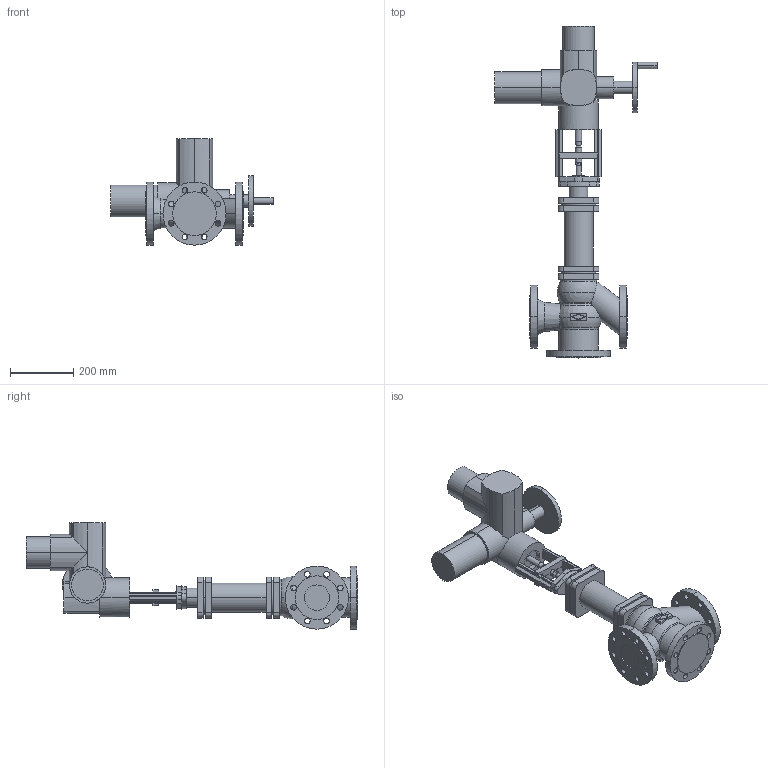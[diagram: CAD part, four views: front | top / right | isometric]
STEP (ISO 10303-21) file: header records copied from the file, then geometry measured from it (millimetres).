
FILE_DESCRIPTION(('OneSpaceDesigner STEP Export'),'2;1');
FILE_NAME('c000003205.stp','2007-01-25T11:58:14',(''),(''),'OneSpace Designer STEP processor for AP214 (Solid Model)','OneSpace Designer 14.00B 27-May-2006 (C) CoCreate Software GmbH','');
FILE_SCHEMA(('AUTOMOTIVE_DESIGN { 1 0 10303 214 1 1 1 1 }'));
Length unit declared in the file: millimetre
Products named in the file (2): 1; 2
Bounding box: 514 x 1051.7 x 337 mm (x, y, z)
Volume: 17273799.3 mm3; surface area: 975987.6 mm2
Topology: 2 solids, 2 shells, 368 faces, 956 edges, 610 vertices
Faces by surface type: cylinder 184, plane 162, torus 10, cone 8, sphere 4
Entity records: 10789 total; most frequent: CARTESIAN_POINT 2316, ORIENTED_EDGE 1904, DIRECTION 1584, EDGE_CURVE 952, VERTEX_POINT 610, AXIS2_PLACEMENT_3D 547, VECTOR 490, LINE 490
